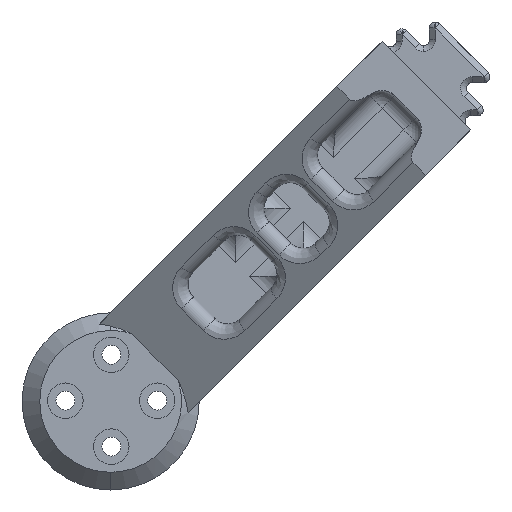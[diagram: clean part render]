
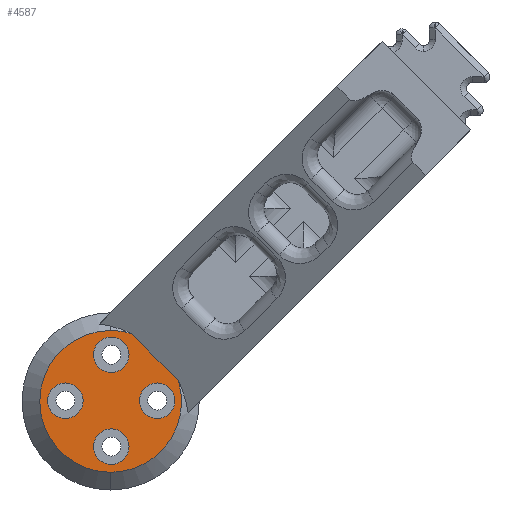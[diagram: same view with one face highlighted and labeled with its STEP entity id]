
A CAD part, front view. The second image highlights one B-rep face of the part: STEP entity #4587.
In plain terms, the highlighted planar face has unit normal (0, -1, 0).
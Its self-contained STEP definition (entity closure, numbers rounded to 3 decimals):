
#200 = DIRECTION ( 'NONE',  ( 0., 0., -1. ) ) ;
#233 = DIRECTION ( 'NONE',  ( 0., 0., -1. ) ) ;
#264 = VERTEX_POINT ( 'NONE', #5253 ) ;
#338 = EDGE_CURVE ( 'NONE', #3807, #7091, #3364, .T. ) ;
#396 = AXIS2_PLACEMENT_3D ( 'NONE', #466, #5781, #5234 ) ;
#427 = EDGE_CURVE ( 'NONE', #5449, #7838, #6413, .T. ) ;
#460 = AXIS2_PLACEMENT_3D ( 'NONE', #835, #7560, #233 ) ;
#466 = CARTESIAN_POINT ( 'NONE',  ( 0.121, 0., 7.901 ) ) ;
#560 = CARTESIAN_POINT ( 'NONE',  ( 7.899, 0., 3.123 ) ) ;
#664 = DIRECTION ( 'NONE',  ( 0., 0., 1. ) ) ;
#751 = EDGE_CURVE ( 'NONE', #1400, #1857, #1726, .T. ) ;
#774 = ORIENTED_EDGE ( 'NONE', *, *, #7725, .F. ) ;
#835 = CARTESIAN_POINT ( 'NONE',  ( -7.657, 0., 0.123 ) ) ;
#889 = DIRECTION ( 'NONE',  ( 0., -1., 0. ) ) ;
#990 = EDGE_LOOP ( 'NONE', ( #774, #2948 ) ) ;
#1159 = ORIENTED_EDGE ( 'NONE', *, *, #5695, .F. ) ;
#1212 = DIRECTION ( 'NONE',  ( 0., 0., 1. ) ) ;
#1394 = CIRCLE ( 'NONE', #6217, 3. ) ;
#1400 = VERTEX_POINT ( 'NONE', #6533 ) ;
#1420 = CARTESIAN_POINT ( 'NONE',  ( 65.621, 0., -50.621 ) ) ;
#1474 = CARTESIAN_POINT ( 'NONE',  ( 0., 0., 0. ) ) ;
#1494 = LINE ( 'NONE', #1420, #1589 ) ;
#1506 = DIRECTION ( 'NONE',  ( 0., 0., -1. ) ) ;
#1537 = VERTEX_POINT ( 'NONE', #7389 ) ;
#1589 = VECTOR ( 'NONE', #7593, 1000. ) ;
#1596 = CARTESIAN_POINT ( 'NONE',  ( 7.899, 0., 0.123 ) ) ;
#1633 = CIRCLE ( 'NONE', #3941, 12. ) ;
#1655 = CARTESIAN_POINT ( 'NONE',  ( 0.121, 0., -7.655 ) ) ;
#1671 = CARTESIAN_POINT ( 'NONE',  ( 0., 0., 12. ) ) ;
#1726 = CIRCLE ( 'NONE', #460, 3. ) ;
#1794 = CIRCLE ( 'NONE', #5236, 3. ) ;
#1818 = ORIENTED_EDGE ( 'NONE', *, *, #1978, .F. ) ;
#1857 = VERTEX_POINT ( 'NONE', #7410 ) ;
#1936 = VERTEX_POINT ( 'NONE', #3785 ) ;
#1971 = ORIENTED_EDGE ( 'NONE', *, *, #6848, .T. ) ;
#1978 = EDGE_CURVE ( 'NONE', #2389, #1537, #6244, .T. ) ;
#2037 = EDGE_CURVE ( 'NONE', #1537, #2389, #1794, .T. ) ;
#2039 = AXIS2_PLACEMENT_3D ( 'NONE', #3604, #4795, #664 ) ;
#2383 = FACE_BOUND ( 'NONE', #7518, .T. ) ;
#2389 = VERTEX_POINT ( 'NONE', #6092 ) ;
#2653 = CIRCLE ( 'NONE', #6050, 3. ) ;
#2687 = DIRECTION ( 'NONE',  ( 0., -1., 0. ) ) ;
#2790 = EDGE_LOOP ( 'NONE', ( #1971, #6559, #4802, #4078 ) ) ;
#2940 = FACE_BOUND ( 'NONE', #4166, .T. ) ;
#2948 = ORIENTED_EDGE ( 'NONE', *, *, #427, .F. ) ;
#2971 = EDGE_CURVE ( 'NONE', #264, #3807, #1633, .T. ) ;
#3192 = ORIENTED_EDGE ( 'NONE', *, *, #751, .F. ) ;
#3236 = CARTESIAN_POINT ( 'NONE',  ( 7.899, 0., 0.123 ) ) ;
#3272 = EDGE_CURVE ( 'NONE', #1857, #1400, #1394, .T. ) ;
#3308 = DIRECTION ( 'NONE',  ( 0., 0., 1. ) ) ;
#3364 = CIRCLE ( 'NONE', #3496, 12. ) ;
#3496 = AXIS2_PLACEMENT_3D ( 'NONE', #1474, #889, #3308 ) ;
#3502 = EDGE_CURVE ( 'NONE', #7091, #4195, #3572, .T. ) ;
#3526 = FACE_BOUND ( 'NONE', #990, .T. ) ;
#3572 = CIRCLE ( 'NONE', #2039, 12. ) ;
#3604 = CARTESIAN_POINT ( 'NONE',  ( 0., 0., 0. ) ) ;
#3607 = PLANE ( 'NONE',  #7497 ) ;
#3691 = CARTESIAN_POINT ( 'NONE',  ( 0., 0., 0. ) ) ;
#3785 = CARTESIAN_POINT ( 'NONE',  ( 0.121, 0., -10.655 ) ) ;
#3807 = VERTEX_POINT ( 'NONE', #1671 ) ;
#3941 = AXIS2_PLACEMENT_3D ( 'NONE', #5605, #2687, #7534 ) ;
#4021 = AXIS2_PLACEMENT_3D ( 'NONE', #7150, #4134, #7317 ) ;
#4042 = DIRECTION ( 'NONE',  ( 0., -1., 0. ) ) ;
#4078 = ORIENTED_EDGE ( 'NONE', *, *, #3502, .T. ) ;
#4095 = DIRECTION ( 'NONE',  ( 0., 0., -1. ) ) ;
#4127 = CARTESIAN_POINT ( 'NONE',  ( 0.121, 0., 7.901 ) ) ;
#4134 = DIRECTION ( 'NONE',  ( 0., -1., 0. ) ) ;
#4166 = EDGE_LOOP ( 'NONE', ( #7490, #1159 ) ) ;
#4195 = VERTEX_POINT ( 'NONE', #5287 ) ;
#4288 = FACE_OUTER_BOUND ( 'NONE', #2790, .T. ) ;
#4411 = AXIS2_PLACEMENT_3D ( 'NONE', #1655, #5201, #1506 ) ;
#4499 = DIRECTION ( 'NONE',  ( 0., -1., 0. ) ) ;
#4587 = ADVANCED_FACE ( 'NONE', ( #2383, #3526, #2940, #4798, #4288 ), #3607, .F. ) ;
#4795 = DIRECTION ( 'NONE',  ( 0., -1., 0. ) ) ;
#4798 = FACE_BOUND ( 'NONE', #6034, .T. ) ;
#4802 = ORIENTED_EDGE ( 'NONE', *, *, #338, .T. ) ;
#5058 = ORIENTED_EDGE ( 'NONE', *, *, #2037, .F. ) ;
#5201 = DIRECTION ( 'NONE',  ( 0., -1., 0. ) ) ;
#5234 = DIRECTION ( 'NONE',  ( 0., 0., -1. ) ) ;
#5236 = AXIS2_PLACEMENT_3D ( 'NONE', #4127, #6542, #4095 ) ;
#5253 = CARTESIAN_POINT ( 'NONE',  ( 3.531, 0., 11.469 ) ) ;
#5287 = CARTESIAN_POINT ( 'NONE',  ( 11.469, 0., 3.531 ) ) ;
#5310 = ORIENTED_EDGE ( 'NONE', *, *, #3272, .F. ) ;
#5335 = CARTESIAN_POINT ( 'NONE',  ( 7.899, 0., -2.877 ) ) ;
#5351 = CARTESIAN_POINT ( 'NONE',  ( -7.657, 0., 0.123 ) ) ;
#5449 = VERTEX_POINT ( 'NONE', #560 ) ;
#5605 = CARTESIAN_POINT ( 'NONE',  ( 0., 0., 0. ) ) ;
#5646 = DIRECTION ( 'NONE',  ( 0., -1., 0. ) ) ;
#5695 = EDGE_CURVE ( 'NONE', #6598, #1936, #7067, .T. ) ;
#5781 = DIRECTION ( 'NONE',  ( 0., -1., 0. ) ) ;
#5813 = EDGE_CURVE ( 'NONE', #1936, #6598, #7186, .T. ) ;
#6014 = DIRECTION ( 'NONE',  ( 0., 1., 0. ) ) ;
#6034 = EDGE_LOOP ( 'NONE', ( #3192, #5310 ) ) ;
#6050 = AXIS2_PLACEMENT_3D ( 'NONE', #1596, #4042, #6452 ) ;
#6092 = CARTESIAN_POINT ( 'NONE',  ( 0.121, 0., 10.901 ) ) ;
#6217 = AXIS2_PLACEMENT_3D ( 'NONE', #5351, #4499, #6880 ) ;
#6244 = CIRCLE ( 'NONE', #396, 3. ) ;
#6413 = CIRCLE ( 'NONE', #7318, 3. ) ;
#6452 = DIRECTION ( 'NONE',  ( 0., 0., -1. ) ) ;
#6533 = CARTESIAN_POINT ( 'NONE',  ( -7.657, 0., -2.877 ) ) ;
#6542 = DIRECTION ( 'NONE',  ( 0., -1., 0. ) ) ;
#6559 = ORIENTED_EDGE ( 'NONE', *, *, #2971, .T. ) ;
#6598 = VERTEX_POINT ( 'NONE', #7148 ) ;
#6848 = EDGE_CURVE ( 'NONE', #4195, #264, #1494, .T. ) ;
#6880 = DIRECTION ( 'NONE',  ( 0., 0., -1. ) ) ;
#7067 = CIRCLE ( 'NONE', #4411, 3. ) ;
#7091 = VERTEX_POINT ( 'NONE', #7316 ) ;
#7148 = CARTESIAN_POINT ( 'NONE',  ( 0.121, 0., -4.655 ) ) ;
#7150 = CARTESIAN_POINT ( 'NONE',  ( 0.121, 0., -7.655 ) ) ;
#7186 = CIRCLE ( 'NONE', #4021, 3. ) ;
#7316 = CARTESIAN_POINT ( 'NONE',  ( 0., 0., -12. ) ) ;
#7317 = DIRECTION ( 'NONE',  ( 0., 0., -1. ) ) ;
#7318 = AXIS2_PLACEMENT_3D ( 'NONE', #3236, #5646, #200 ) ;
#7389 = CARTESIAN_POINT ( 'NONE',  ( 0.121, 0., 4.901 ) ) ;
#7410 = CARTESIAN_POINT ( 'NONE',  ( -7.657, 0., 3.123 ) ) ;
#7490 = ORIENTED_EDGE ( 'NONE', *, *, #5813, .F. ) ;
#7497 = AXIS2_PLACEMENT_3D ( 'NONE', #3691, #6014, #1212 ) ;
#7518 = EDGE_LOOP ( 'NONE', ( #5058, #1818 ) ) ;
#7534 = DIRECTION ( 'NONE',  ( 0., 0., 1. ) ) ;
#7560 = DIRECTION ( 'NONE',  ( 0., -1., 0. ) ) ;
#7593 = DIRECTION ( 'NONE',  ( -0.707, 0., 0.707 ) ) ;
#7725 = EDGE_CURVE ( 'NONE', #7838, #5449, #2653, .T. ) ;
#7838 = VERTEX_POINT ( 'NONE', #5335 ) ;
